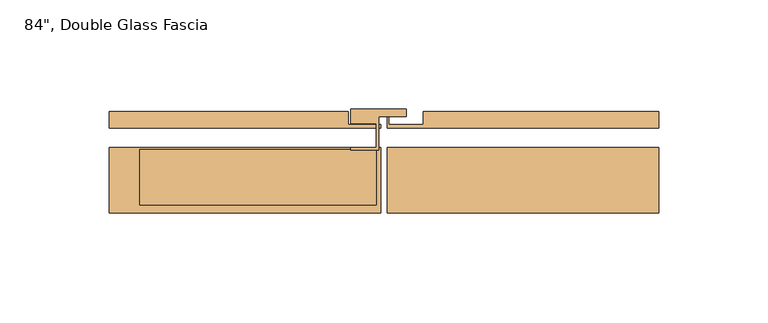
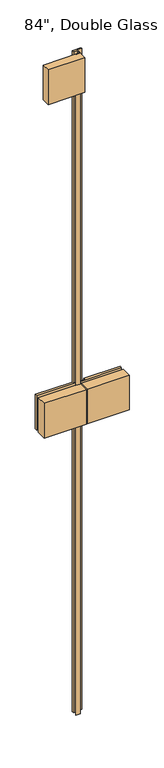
"""IFC4 building model written with IfcOpenShell, lengths in millimetres: door geometry."""

from ifc_helpers import new_model, si_unit, frame, origin, place, context, project, spatial, polyline, outline, extrude, faceted_brep, source, transform, mapped, element, save


def door_bd91c697(model_context):
    return source(origin(), model_context, "Body", "SolidModel", [
        extrude(outline(polyline([(-124.3748055, -2.6150545), (-124.3748055, 5.0049455), (-15.24, 5.0049455), (-15.24, -1.0339045), (-0.4668, -1.0339045), (-0.4668, -2.6150545), (-124.3748055, -2.6150545)])), frame((0.0, 0.0, 933.8368945), z_axis=(0.0, 0.0, 1.0), x_axis=(1.0, 0.0, 0.0)), (0.0, 0.0, 1.0), 108.090611),
        extrude(outline(polyline([(2.54, -2.6150545), (2.54, 5.0049455), (3.1496, 5.0049455), (3.1496, -1.0148545), (19.0246, -1.0148545), (19.0246, 5.0049455), (126.4480055, 5.0049455), (126.4480055, -2.6150545), (2.54, -2.6150545)])), frame((0.0, 0.0, 933.8368945), z_axis=(0.0, 0.0, 1.0), x_axis=(1.0, 0.0, 0.0)), (0.0, 0.0, 1.0), 108.090611),
        faceted_brep([(-1.27, -12.8990453, 2075.815), (-1.27, 2.3409547, 2075.815), (11.3053693, 2.3409547, 2075.815), (11.3053693, 5.7699547, 2075.815), (-14.0946307, 5.7699547, 2075.815), (-14.0946307, -0.8340453, 2075.815), (-2.54, -0.8340453, 2075.815), (-2.54, -11.6320545, 2075.815), (-14.0946307, -11.6320545, 2075.815), (-14.0946307, -12.8990453, 2075.815), (-1.27, -12.8990453, 12.7), (-14.0946307, -12.8990453, 12.7), (-14.0946307, -11.6320545, 12.7), (-2.54, -11.6320545, 12.7), (-2.54, -0.8340453, 12.7), (-14.0946307, -0.8340453, 12.7), (-14.0946307, 5.7699547, 12.7), (11.3053693, 5.7699547, 12.7), (11.3053693, 2.3409547, 12.7), (-1.27, 2.3409547, 12.7), (-14.0946307, -12.8990453, 1041.9275055), (-1.27, -12.8990453, 1041.9275055), (-1.27, -12.8990453, 933.8368945), (-14.0946307, -12.8990453, 933.8368945), (-14.0946307, -11.6320545, 933.8368945), (-14.0946307, -11.6320545, 1041.9275055), (-124.3748055, -11.6320545, 933.8368945), (-124.3748055, -11.6320545, 1041.9275055), (-0.4668, -11.6320545, 933.8368945), (-1.27, -11.6320545, 933.8368945), (-1.27, -11.6320545, 1041.9275055), (-0.4668, -11.6320545, 1041.9275055), (-124.3748055, -41.4770545, 1041.9275055), (-124.3748055, -41.4770545, 933.8368945), (-0.4668, -41.4770545, 933.8368945), (-0.4668, -41.4770545, 1041.9275055)], [[[0, 1, 2, 3, 4, 5, 6, 7, 8, 9]], [[10, 11, 12, 13, 14, 15, 16, 17, 18, 19]], [[9, 20, 21, 0]], [[10, 22, 23, 11]], [[11, 23, 24, 12]], [[8, 25, 20, 9]], [[7, 13, 12, 24, 26, 27, 25, 8]], [[28, 29, 30, 31]], [[6, 14, 13, 7]], [[5, 15, 14, 6]], [[4, 16, 15, 5]], [[3, 17, 16, 4]], [[2, 18, 17, 3]], [[1, 19, 18, 2]], [[0, 21, 30, 29, 22, 10, 19, 1]], [[32, 33, 34, 35]], [[26, 33, 32, 27]], [[33, 26, 24, 23, 22, 29, 28, 34]], [[31, 35, 34, 28]], [[35, 31, 30, 21, 20, 25, 27, 32]]]),
        faceted_brep([(2.54, -11.6320545, 1041.9275055), (126.4480055, -11.6320545, 1041.9275055), (126.4480055, -11.6320545, 933.8368945), (2.54, -11.6320545, 933.8368945), (2.54, -41.4770545, 1041.9275055), (2.54, -41.4770545, 933.8368945), (126.4480055, -41.4770545, 933.8368945), (126.4480055, -41.4770545, 1041.9275055)], [[[0, 1, 2, 3]], [[4, 5, 6, 7]], [[3, 5, 4, 0]], [[2, 6, 5, 3]], [[1, 7, 6, 2]], [[0, 4, 7, 1]]]),
        extrude(outline(polyline([(-2.54, -12.6361483), (-2.54, -38.0361483), (-110.49, -38.0361483), (-110.49, -12.6361483), (-2.54, -12.6361483)])), frame((0.0, 0.0, 1967.865), z_axis=(0.0, 0.0, 1.0), x_axis=(1.0, 0.0, 0.0)), (0.0, 0.0, 1.0), 107.95),
    ])


if __name__ == "__main__":
    model = new_model("IFC4")
    model_context = context("Model", 3, world=origin())
    ifc_project = project(units=[si_unit("LENGTHUNIT", "METRE", prefix="MILLI")], contexts=[model_context])
    site = spatial("IfcSite", under=ifc_project)
    building = spatial("IfcBuilding", under=site)
    placement = place(None, origin())
    door_shape = door_bd91c697(model_context)
    element("IfcDoor", 1, ObjectType="Door-Hinged_Glass_Segmented_Height-Teknion-Altos-Double : 84\", Double Glass Fascia", at=placement, inside=building, context=model_context, shape_type="MappedRepresentation", body=[
        mapped(door_shape, transform((0.0, 0.0, 0.0), x_axis=(1.0, 0.0, 0.0), y_axis=(0.0, 1.0, 0.0), z_axis=(0.0, 0.0, 1.0))),
    ])
    save(model, "model.ifc")
